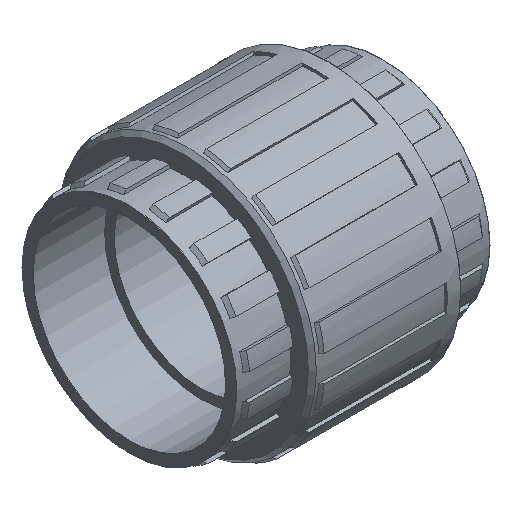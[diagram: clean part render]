
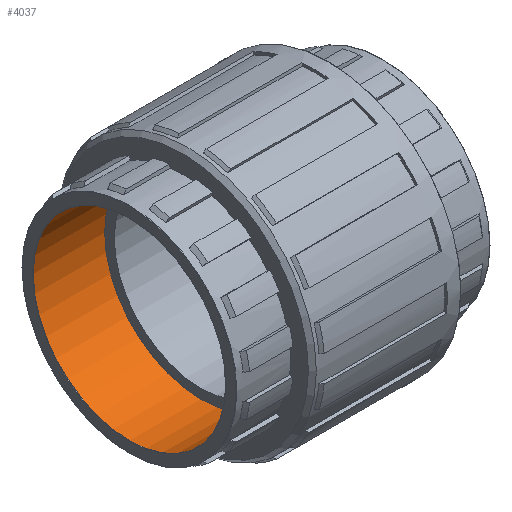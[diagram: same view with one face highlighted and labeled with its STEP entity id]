
A CAD part, isometric view. The second image highlights one B-rep face of the part: STEP entity #4037.
In plain terms, the highlighted cylindrical face has radius 55.036 mm (diameter 110.072 mm), a full revolution.
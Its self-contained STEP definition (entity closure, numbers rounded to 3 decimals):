
#30=FACE_BOUND('',#756,.T.);
#271=CIRCLE('',#4432,55.036);
#273=CIRCLE('',#4436,55.036);
#331=CYLINDRICAL_SURFACE('',#4435,55.036);
#534=FACE_OUTER_BOUND('',#755,.T.);
#755=EDGE_LOOP('',(#3501));
#756=EDGE_LOOP('',(#3502));
#1935=VERTEX_POINT('',#6849);
#1937=VERTEX_POINT('',#6855);
#2509=EDGE_CURVE('',#1935,#1935,#271,.T.);
#2511=EDGE_CURVE('',#1937,#1937,#273,.T.);
#3501=ORIENTED_EDGE('',*,*,#2511,.F.);
#3502=ORIENTED_EDGE('',*,*,#2509,.F.);
#4037=ADVANCED_FACE('',(#534,#30),#331,.F.);
#4432=AXIS2_PLACEMENT_3D('',#6850,#5616,#5617);
#4435=AXIS2_PLACEMENT_3D('',#6854,#5622,#5623);
#4436=AXIS2_PLACEMENT_3D('',#6856,#5624,#5625);
#5616=DIRECTION('center_axis',(1.,0.,0.));
#5617=DIRECTION('ref_axis',(0.,1.,0.));
#5622=DIRECTION('center_axis',(-1.,0.,0.));
#5623=DIRECTION('ref_axis',(0.,-1.,0.));
#5624=DIRECTION('center_axis',(-1.,0.,0.));
#5625=DIRECTION('ref_axis',(0.,0.,1.));
#6849=CARTESIAN_POINT('',(-72.34,-55.036,0.));
#6850=CARTESIAN_POINT('Origin',(-72.34,0.,0.));
#6854=CARTESIAN_POINT('Origin',(-52.,0.,0.));
#6855=CARTESIAN_POINT('',(-31.5,-55.036,0.));
#6856=CARTESIAN_POINT('Origin',(-31.5,0.,0.));
